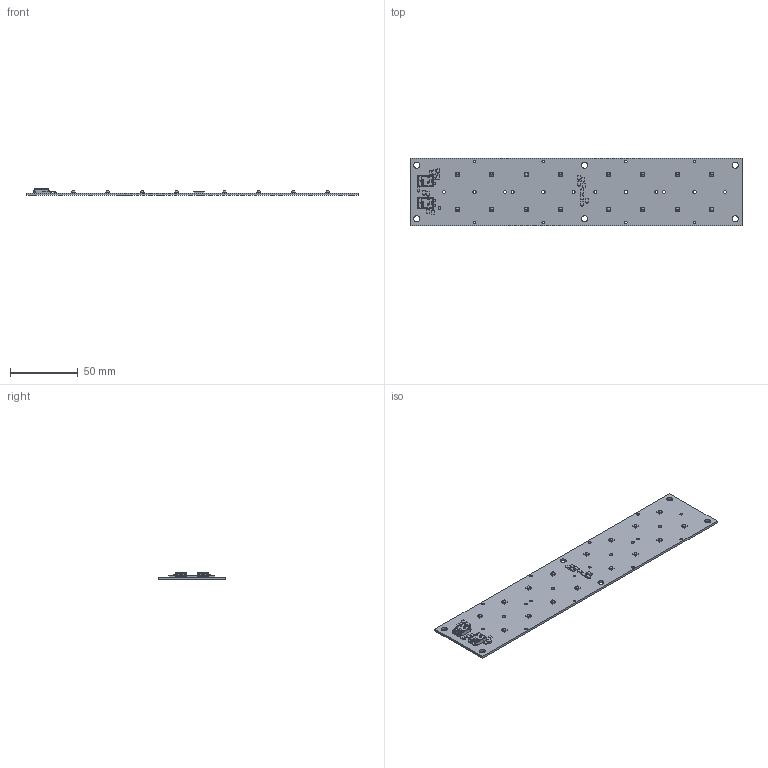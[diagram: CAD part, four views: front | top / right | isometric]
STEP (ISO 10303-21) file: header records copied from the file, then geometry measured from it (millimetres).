
FILE_DESCRIPTION((''),'2;1');
FILE_NAME('RLE_2X8_TRID','2016-04-18T',('bernhard.fink'),(''),'PRO/ENGINEER BY PARAMETRIC TECHNOLOGY CORPORATION, 2015200','PRO/ENGINEER BY PARAMETRIC TECHNOLOGY CORPORATION, 2015200','');
FILE_SCHEMA(('AUTOMOTIVE_DESIGN { 1 0 10303 214 1 1 1 1 }'));
Length unit declared in the file: millimetre
Products named in the file (3): S147C_MODUL; ET_MICROCON_SMD_2POL; RLE_2X8_TRID
Assembly tree (3 placements, depth 2):
  RLE_2X8_TRID
    S147C_MODUL
    ET_MICROCON_SMD_2POL  x2
Bounding box: 245 x 49.5 x 5.1 mm (x, y, z)
Volume: 20523.3 mm3; surface area: 26705 mm2
Topology: 18 solids, 18 shells, 1322 faces, 3462 edges, 2157 vertices
Faces by surface type: plane 701, cylinder 288, bspline 200, cone 60, sphere 49, torus 24
Entity records: 42634 total; most frequent: CARTESIAN_POINT 8950, ORIENTED_EDGE 4664, DIRECTION 4022, PRESENTATION_STYLE_ASSIGNMENT 2884, STYLED_ITEM 2355, CURVE_STYLE 2332, EDGE_CURVE 2332, VECTOR 1632
